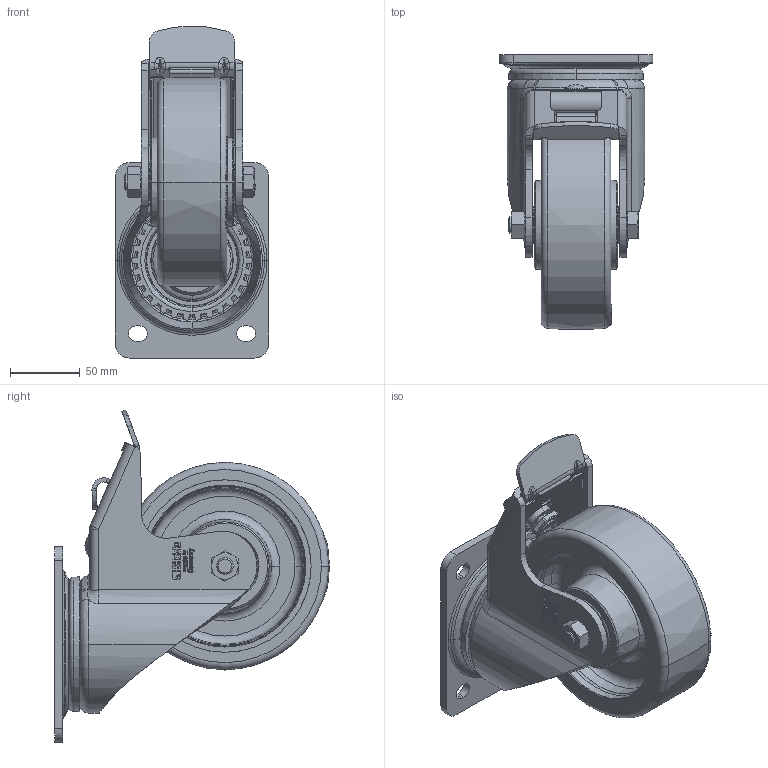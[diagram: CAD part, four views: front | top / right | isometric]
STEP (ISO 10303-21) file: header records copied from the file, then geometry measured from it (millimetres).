
FILE_DESCRIPTION (( 'STEP AP214' ), '1' );
FILE_NAME ('LH-GTH_150K-FI_513796-214.step', '2022-01-01T10:11:44', ( '' ), ( '' ), 'SwSTEP 2.0', 'SolidWorks 2018', '' );
FILE_SCHEMA (( 'AUTOMOTIVE_DESIGN' ));
Length unit declared in the file: millimetre
Products named in the file (5): LH-GTH_150K-FI_513796-214; GH-LH_150-160_GH-LH-150x60-03-FI_20x60; GH-LH-150x60-03-FI_20x60_G16_3D; GTH_3D_G16_GTH_150_20K_266478; GTH_150_20K_G16_3D
Assembly tree (4 placements, depth 3):
  LH-GTH_150K-FI_513796-214
    GTH_3D_G16_GTH_150_20K_266478
      GTH_150_20K_G16_3D
    GH-LH_150-160_GH-LH-150x60-03-FI_20x60
      GH-LH-150x60-03-FI_20x60_G16_3D
Bounding box: 110 x 196.91 x 237.76 mm (x, y, z)
Volume: 1017171 mm3; surface area: 245992.2 mm2
Topology: 2 solids, 8 shells, 3160 faces, 8551 edges, 5570 vertices
Faces by surface type: plane 1241, bspline 1009, cylinder 575, torus 188, cone 133, sphere 14
Entity records: 136096 total; most frequent: CARTESIAN_POINT 56589, ORIENTED_EDGE 17076, DIRECTION 11482, EDGE_CURVE 8538, VERTEX_POINT 5567, VECTOR 4356, LINE 4356, AXIS2_PLACEMENT_3D 3563
